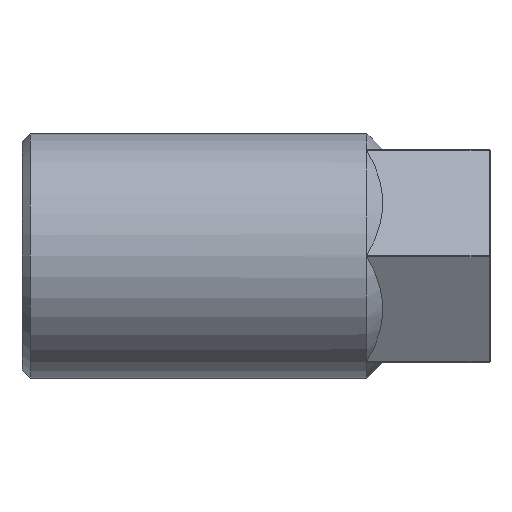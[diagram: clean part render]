
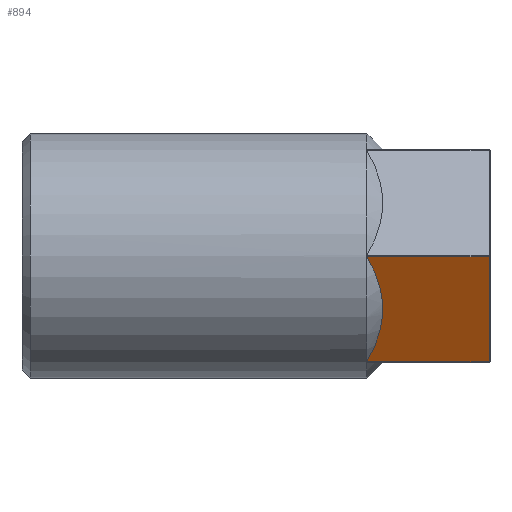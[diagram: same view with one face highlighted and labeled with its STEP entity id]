
A CAD part, left-side view. The second image highlights one B-rep face of the part: STEP entity #894.
In plain terms, the highlighted planar face has unit normal (-0.866, 0, -0.5).
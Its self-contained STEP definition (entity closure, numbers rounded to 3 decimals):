
#44=(
BOUNDED_CURVE()
B_SPLINE_CURVE(2,(#1460,#1461,#1462),.UNSPECIFIED.,.F.,.F.)
B_SPLINE_CURVE_WITH_KNOTS((3,3),(0.,0.582),.UNSPECIFIED.)
CURVE()
GEOMETRIC_REPRESENTATION_ITEM()
RATIONAL_B_SPLINE_CURVE((1.,1.029,1.))
REPRESENTATION_ITEM('')
);
#45=(
BOUNDED_CURVE()
B_SPLINE_CURVE(2,(#1465,#1466,#1467),.UNSPECIFIED.,.F.,.F.)
B_SPLINE_CURVE_WITH_KNOTS((3,3),(0.,0.582),.UNSPECIFIED.)
CURVE()
GEOMETRIC_REPRESENTATION_ITEM()
RATIONAL_B_SPLINE_CURVE((1.,1.029,1.))
REPRESENTATION_ITEM('')
);
#106=FACE_OUTER_BOUND('',#163,.T.);
#163=EDGE_LOOP('',(#687,#688,#689,#690,#691,#692));
#253=LINE('',#1389,#322);
#254=LINE('',#1393,#323);
#271=LINE('',#1457,#340);
#272=LINE('',#1464,#341);
#322=VECTOR('',#1116,10.);
#323=VECTOR('',#1119,10.);
#340=VECTOR('',#1156,10.);
#341=VECTOR('',#1159,10.);
#406=VERTEX_POINT('',#1386);
#407=VERTEX_POINT('',#1388);
#408=VERTEX_POINT('',#1390);
#409=VERTEX_POINT('',#1392);
#423=VERTEX_POINT('',#1459);
#424=VERTEX_POINT('',#1463);
#498=EDGE_CURVE('',#407,#406,#253,.T.);
#500=EDGE_CURVE('',#409,#408,#254,.T.);
#527=EDGE_CURVE('',#409,#406,#271,.T.);
#528=EDGE_CURVE('',#423,#408,#44,.F.);
#529=EDGE_CURVE('',#423,#424,#272,.T.);
#530=EDGE_CURVE('',#407,#424,#45,.F.);
#687=ORIENTED_EDGE('',*,*,#527,.F.);
#688=ORIENTED_EDGE('',*,*,#500,.T.);
#689=ORIENTED_EDGE('',*,*,#528,.F.);
#690=ORIENTED_EDGE('',*,*,#529,.T.);
#691=ORIENTED_EDGE('',*,*,#530,.F.);
#692=ORIENTED_EDGE('',*,*,#498,.T.);
#856=PLANE('',#990);
#894=ADVANCED_FACE('',(#106),#856,.T.);
#990=AXIS2_PLACEMENT_3D('',#1458,#1157,#1158);
#1116=DIRECTION('',(0.,-1.,0.));
#1119=DIRECTION('',(0.,1.,0.));
#1156=DIRECTION('',(0.5,0.,-0.866));
#1157=DIRECTION('center_axis',(-0.866,0.,-0.5));
#1158=DIRECTION('ref_axis',(-0.5,0.,0.866));
#1159=DIRECTION('',(0.5,0.,-0.866));
#1386=CARTESIAN_POINT('',(-6.33,0.1,-10.837));
#1388=CARTESIAN_POINT('',(-6.33,12.63,-10.837));
#1389=CARTESIAN_POINT('',(-6.33,0.,-10.837));
#1390=CARTESIAN_POINT('',(-12.55,12.63,-0.063));
#1392=CARTESIAN_POINT('',(-12.55,0.1,-0.063));
#1393=CARTESIAN_POINT('',(-12.55,0.,-0.063));
#1457=CARTESIAN_POINT('',(-9.454,0.1,-5.425));
#1458=CARTESIAN_POINT('Origin',(-6.293,0.,-10.9));
#1459=CARTESIAN_POINT('',(-9.77,11.,-4.878));
#1460=CARTESIAN_POINT('Ctrl Pts',(-12.55,12.63,-0.063));
#1461=CARTESIAN_POINT('Ctrl Pts',(-11.063,11.156,-2.638));
#1462=CARTESIAN_POINT('Ctrl Pts',(-9.77,11.,-4.878));
#1463=CARTESIAN_POINT('',(-9.109,11.,-6.022));
#1464=CARTESIAN_POINT('',(-7.866,11.,-8.175));
#1465=CARTESIAN_POINT('Ctrl Pts',(-9.109,11.,-6.022));
#1466=CARTESIAN_POINT('Ctrl Pts',(-7.816,11.156,-8.262));
#1467=CARTESIAN_POINT('Ctrl Pts',(-6.33,12.63,-10.837));
